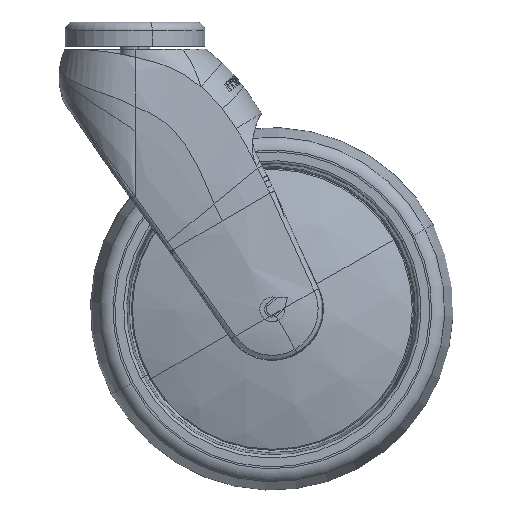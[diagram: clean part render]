
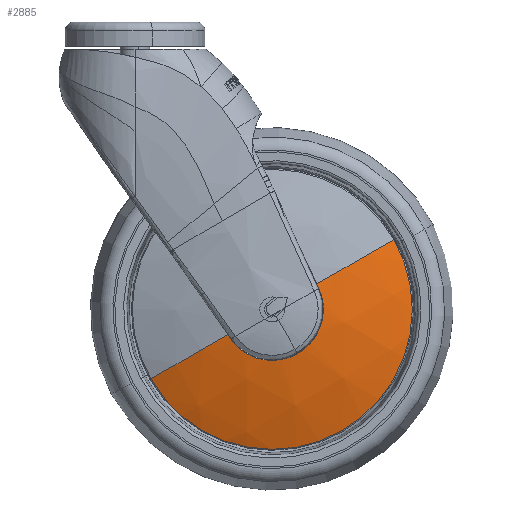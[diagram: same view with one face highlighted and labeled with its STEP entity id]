
A CAD part, front view. The second image highlights one B-rep face of the part: STEP entity #2885.
In plain terms, the highlighted spherical face has radius 136.86 mm.
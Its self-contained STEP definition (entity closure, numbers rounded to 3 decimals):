
#2768 = VERTEX_POINT ( 'NONE', #14946 ) ;
#2769 = VERTEX_POINT ( 'NONE', #14945 ) ;
#2847 = EDGE_CURVE ( 'NONE', #2849, #2769, #15023, .T. ) ;
#2849 = VERTEX_POINT ( 'NONE', #15018 ) ;
#2851 = ORIENTED_EDGE ( 'NONE', *, *, #2853, .T. ) ;
#2853 = EDGE_CURVE ( 'NONE', #2849, #2855, #15014, .T. ) ;
#2855 = VERTEX_POINT ( 'NONE', #15111 ) ;
#2857 = ORIENTED_EDGE ( 'NONE', *, *, #2859, .T. ) ;
#2859 = EDGE_CURVE ( 'NONE', #2855, #2894, #15109, .T. ) ;
#2885 = ADVANCED_FACE ( 'NONE', ( #15088 ), #15072, .T. ) ;
#2888 = EDGE_LOOP ( 'NONE', ( #2890, #2898, #2901, #2903, #2851, #2857 ) ) ;
#2890 = ORIENTED_EDGE ( 'NONE', *, *, #2892, .T. ) ;
#2892 = EDGE_CURVE ( 'NONE', #2894, #2896, #15192, .T. ) ;
#2894 = VERTEX_POINT ( 'NONE', #15183 ) ;
#2896 = VERTEX_POINT ( 'NONE', #15181 ) ;
#2898 = ORIENTED_EDGE ( 'NONE', *, *, #2900, .T. ) ;
#2900 = EDGE_CURVE ( 'NONE', #2896, #2768, #15173, .T. ) ;
#2901 = ORIENTED_EDGE ( 'NONE', *, *, #2902, .F. ) ;
#2902 = EDGE_CURVE ( 'NONE', #2769, #2768, #15160, .T. ) ;
#2903 = ORIENTED_EDGE ( 'NONE', *, *, #2847, .F. ) ;
#14945 = CARTESIAN_POINT ( 'NONE',  ( 41.599, -14.425, 23.798 ) ) ;
#14946 = CARTESIAN_POINT ( 'NONE',  ( -41.599, -14.425, -23.798 ) ) ;
#15010 = DIRECTION ( 'NONE',  ( 0.426, 0., -0.905 ) ) ;
#15011 = DIRECTION ( 'NONE',  ( 0.905, 0., 0.426 ) ) ;
#15012 = CARTESIAN_POINT ( 'NONE',  ( 15.814, 113.77, 7.438 ) ) ;
#15013 = AXIS2_PLACEMENT_3D ( 'NONE', #15012, #15011, #15010 ) ;
#15014 = CIRCLE ( 'NONE', #15013, 135.74 ) ;
#15018 = CARTESIAN_POINT ( 'NONE',  ( 15.217, -21.962, 8.706 ) ) ;
#15019 = DIRECTION ( 'NONE',  ( 0.868, 0., 0.497 ) ) ;
#15020 = DIRECTION ( 'NONE',  ( -0.497, 0., 0.868 ) ) ;
#15021 = CARTESIAN_POINT ( 'NONE',  ( 0., 113.77, 0. ) ) ;
#15022 = AXIS2_PLACEMENT_3D ( 'NONE', #15021, #15020, #15019 ) ;
#15023 = CIRCLE ( 'NONE', #15022, 136.86 ) ;
#15067 = DIRECTION ( 'NONE',  ( 0.868, 0., 0.497 ) ) ;
#15069 = DIRECTION ( 'NONE',  ( 0.497, 0., -0.868 ) ) ;
#15070 = AXIS2_PLACEMENT_3D ( 'NONE', #15077, #15069, #15067 ) ;
#15072 = SPHERICAL_SURFACE ( 'NONE', #15070, 136.86 ) ;
#15077 = CARTESIAN_POINT ( 'NONE',  ( 0., 113.77, 0. ) ) ;
#15088 = FACE_OUTER_BOUND ( 'NONE', #2888, .T. ) ;
#15104 = DIRECTION ( 'NONE',  ( -0.868, 0., -0.497 ) ) ;
#15105 = DIRECTION ( 'NONE',  ( 0., 1., 0. ) ) ;
#15106 = CARTESIAN_POINT ( 'NONE',  ( 0., -21.97, 0. ) ) ;
#15107 = AXIS2_PLACEMENT_3D ( 'NONE', #15106, #15105, #15104 ) ;
#15109 = CIRCLE ( 'NONE', #15107, 17.476 ) ;
#15111 = CARTESIAN_POINT ( 'NONE',  ( 15.814, -21.97, 7.438 ) ) ;
#15153 = DIRECTION ( 'NONE',  ( -0.868, 0., -0.497 ) ) ;
#15155 = DIRECTION ( 'NONE',  ( 0., 1., 0. ) ) ;
#15157 = CARTESIAN_POINT ( 'NONE',  ( 0., -14.425, 0. ) ) ;
#15159 = AXIS2_PLACEMENT_3D ( 'NONE', #15157, #15155, #15153 ) ;
#15160 = CIRCLE ( 'NONE', #15159, 47.925 ) ;
#15166 = DIRECTION ( 'NONE',  ( -0.868, 0., -0.497 ) ) ;
#15168 = DIRECTION ( 'NONE',  ( 0.497, 0., -0.868 ) ) ;
#15170 = CARTESIAN_POINT ( 'NONE',  ( 0., 113.77, 0. ) ) ;
#15172 = AXIS2_PLACEMENT_3D ( 'NONE', #15170, #15168, #15166 ) ;
#15173 = CIRCLE ( 'NONE', #15172, 136.86 ) ;
#15181 = CARTESIAN_POINT ( 'NONE',  ( -15.217, -21.962, -8.706 ) ) ;
#15183 = CARTESIAN_POINT ( 'NONE',  ( -14.427, -21.97, -9.862 ) ) ;
#15185 = DIRECTION ( 'NONE',  ( -0.564, 0., 0.826 ) ) ;
#15187 = DIRECTION ( 'NONE',  ( -0.826, 0., -0.564 ) ) ;
#15189 = CARTESIAN_POINT ( 'NONE',  ( -14.427, 113.77, -9.862 ) ) ;
#15191 = AXIS2_PLACEMENT_3D ( 'NONE', #15189, #15187, #15185 ) ;
#15192 = CIRCLE ( 'NONE', #15191, 135.74 ) ;
